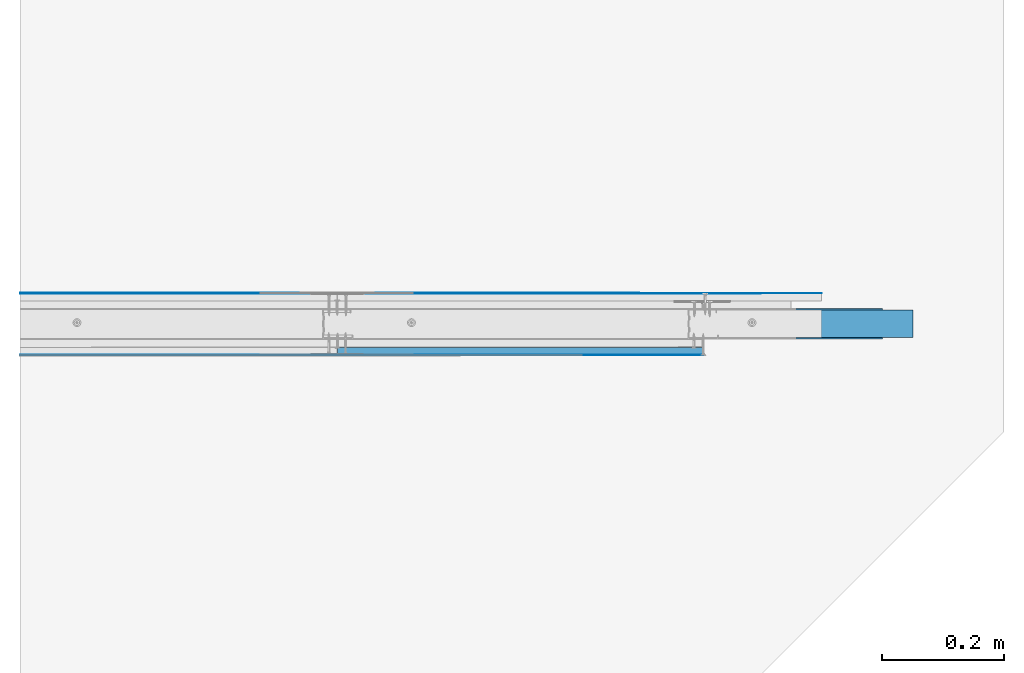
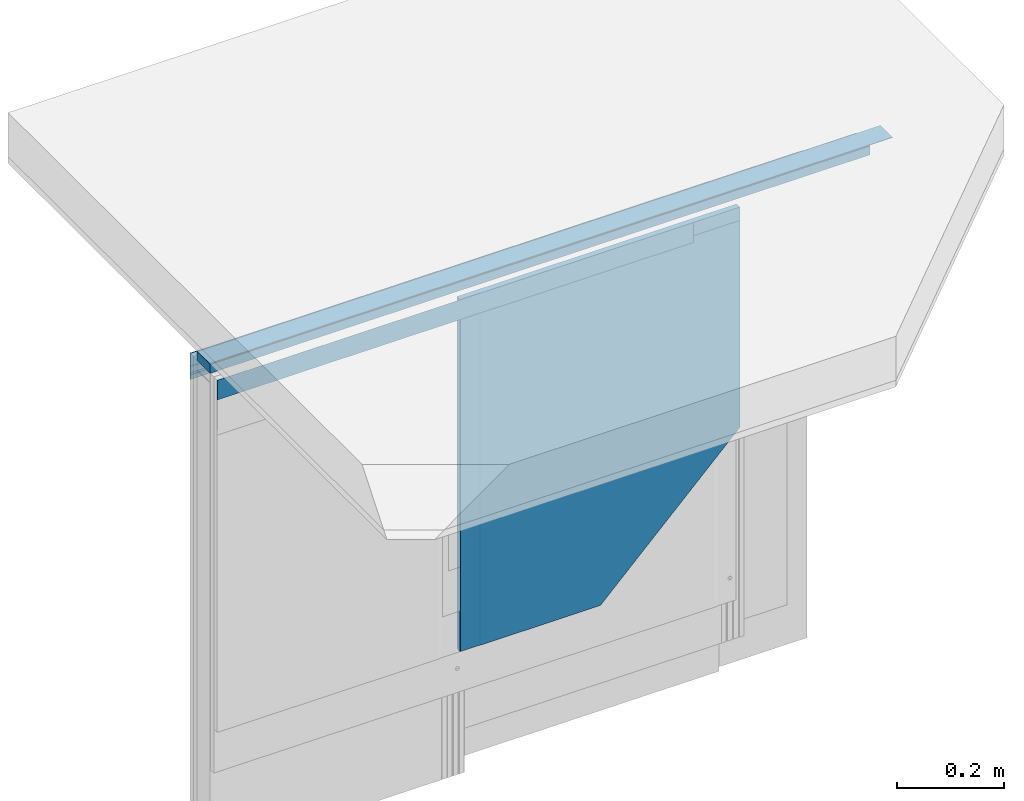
# One storey, part 2 of 36: 9 walls.
"""IFC2X3 building model written with IfcOpenShell, lengths in millimetres."""

from ifc_helpers import new_model, entity, si_unit, converted_unit, direction, frame, origin, origin_with_axes, place, context, project, spatial, faceted_brep, element, save


model = new_model("IFC2X3")

# Units and contexts
model_context = context("Model", 3, precision=1e-05, world=origin(), true_north=direction((0.0, 1.0, 0.0)))
ifc_project = project(units=[si_unit("LENGTHUNIT", "METRE", prefix="MILLI"), si_unit("AREAUNIT", "SQUARE_METRE"), si_unit("VOLUMEUNIT", "CUBIC_METRE"), converted_unit("PLANEANGLEUNIT", "DEGREE", entity("IfcPlaneAngleMeasure", 0.01745), si_unit("PLANEANGLEUNIT", "RADIAN"), dimensions=[0, 0, 0, 0, 0, 0, 0]), si_unit("SOLIDANGLEUNIT", "STERADIAN"), si_unit("MASSUNIT", "GRAM"), si_unit("TIMEUNIT", "SECOND"), si_unit("THERMODYNAMICTEMPERATUREUNIT", "DEGREE_CELSIUS"), si_unit("LUMINOUSINTENSITYUNIT", "LUMEN")], contexts=[model_context])

# Site, building, storey
site_placement = place(None, origin_with_axes())
site = spatial("IfcSite", under=ifc_project, at=site_placement, Name="Default Site", CompositionType="ELEMENT")
building_placement = place(site_placement, origin_with_axes())
building = spatial("IfcBuilding", under=site, at=building_placement, Name="Default Building", CompositionType="ELEMENT")
storey_placement = place(building_placement, origin_with_axes())
storey = spatial("IfcBuildingStorey", under=building, at=storey_placement, Name="Default Building Storey", CompositionType="ELEMENT", Elevation=0.0)

# Walls
wall_1_placement = place(storey_placement, frame((2647.242430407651, 1958.68007752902, 320.4228799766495), z_axis=(0.0, 0.0, -1.0), x_axis=(1.0, 0.0, 0.0)))
element("IfcWall", 1, at=wall_1_placement, inside=storey, Name="Płyta gipsowo-kartonowa RIGIPS PRO (4PRO™)", context=model_context, shape_type="Brep", body=[
    faceted_brep([(601.187218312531, 12.49999999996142, -550.0000000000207), (301.1872183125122, 12.49999999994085, -250.0000000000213), (301.1872183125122, -3.97051280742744e-11, -250.0000000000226), (601.1872183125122, -5.919673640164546e-11, -550.000000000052), (601.1872183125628, 12.49999999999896, -1050.001581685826), (44.99999999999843, 12.50000000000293, -1050.001581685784), (44.99999999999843, 12.50000000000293, -249.9999999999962), (601.187218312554, -2.526689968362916e-12, -1050.001581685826), (285.9232783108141, -4.475850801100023e-11, -250.0000000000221), (40.99999999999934, 11.50000000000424, -249.9999999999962), (0.9999999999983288, 11.5000000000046, -249.9999999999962), (0.7411809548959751, 11.46592582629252, -249.9999999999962), (0.4999999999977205, 11.3660254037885, -249.9999999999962), (0.29289321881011, 11.20710678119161, -249.9999999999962), (0.1339745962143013, 11.00000000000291, -249.9999999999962), (0.03407417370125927, 10.7588190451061, -249.9999999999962), (-3.97051280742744e-12, 10.50000000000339, -249.9999999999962), (0.0, 0.0, -249.9999999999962), (40.99999999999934, 11.50000000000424, -1050.001581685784), (0.9999999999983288, 11.5000000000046, -1050.001581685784), (0.7411809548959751, 11.46592582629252, -1050.001581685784), (0.4999999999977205, 11.3660254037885, -1050.001581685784), (0.29289321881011, 11.20710678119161, -1050.001581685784), (0.1339745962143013, 11.00000000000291, -1050.001581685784), (0.03407417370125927, 10.7588190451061, -1050.001581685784), (-3.97051280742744e-12, 10.50000000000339, -1050.001581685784), (0.0, 0.0, -1050.001581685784)], [[[0, 1, 2, 3]], [[0, 4, 5, 6, 1]], [[3, 7, 4, 0]], [[8, 2, 1, 6, 9, 10, 11, 12, 13, 14, 15, 16, 17]], [[2, 8, 3]], [[9, 6, 5, 18]], [[10, 9, 18, 19]], [[11, 10, 19, 20]], [[12, 11, 20, 21]], [[13, 12, 21, 22]], [[14, 13, 22, 23]], [[15, 14, 23, 24]], [[16, 15, 24, 25]], [[17, 16, 25, 26]], [[26, 7, 3, 8, 17]], [[5, 4, 7, 26, 25, 24, 23, 22, 21, 20, 19, 18]]]),
])
wall_2_placement = place(storey_placement, frame((3268.314756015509, 1972.150772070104, 1378.038854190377), z_axis=(0.0, 0.0, -1.0), x_axis=(1.0, 0.0, 0.0)))
element("IfcWall", 2, at=wall_2_placement, inside=storey, Name="Płyta gipsowa RIGIPS GLASROC F (Ridurit)", context=model_context, shape_type="Brep", body=[
    faceted_brep([(274.7258622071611, -49.99015067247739, -12.30000000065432), (274.7258622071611, 0.0, -12.30000000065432), (-1143.289622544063, 0.0, -12.30000000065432), (-1143.289622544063, -49.99015067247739, -12.30000000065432), (274.7258622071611, 0.0, 7.614392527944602), (-1143.289622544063, 0.0, 7.614392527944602), (274.7258622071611, -49.99015067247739, 7.614392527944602), (-1143.289622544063, -49.99015067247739, 7.614392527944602)], [[[0, 1, 2, 3]], [[1, 4, 5, 2]], [[4, 6, 7, 5]], [[6, 0, 3, 7]], [[7, 3, 2, 5]], [[0, 6, 4, 1]]]),
])
wall_3_placement = place(storey_placement, frame((3247.741854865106, 5452.42414647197, 1385.418092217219), z_axis=(6.44634805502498e-14, -6.858158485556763e-13, -1.0), x_axis=(1.0, -1.14833748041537e-16, 9.007748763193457e-14)))
element("IfcWall", 3, at=wall_3_placement, inside=storey, Name="Taśma uszczelniająca piankowa RIGIPS", context=model_context, shape_type="Brep", body=[
    faceted_brep([(-1122.716721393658, 3477.783223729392, -5.000000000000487), (-1122.716721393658, 3477.862841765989, -6.006369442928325), (-1122.716721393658, 3432.691889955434, -5.86497146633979), (-1122.716721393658, 3432.783223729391, -5.000000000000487), (345.2987633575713, 3477.862841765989, -6.006369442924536), (345.2987633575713, 3477.783223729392, -4.999999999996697), (345.2987633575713, 3432.783223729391, -4.999999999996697), (345.2987633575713, 3432.691889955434, -5.864971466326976)], [[[0, 1, 2, 3]], [[4, 5, 6, 7]], [[5, 0, 3, 6]], [[6, 3, 2, 7]], [[7, 2, 1, 4]], [[4, 1, 0, 5]]]),
])
wall_4_placement = place(storey_placement, frame((3148.429648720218, 1945.880077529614, 1320.724461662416), z_axis=(0.0, 0.0, 1.0), x_axis=(1.0, 0.0, 0.0)))
element("IfcWall", 4, at=wall_4_placement, inside=storey, Name="Dedykowana masa szpachlowa Rigips - konstrukcyjna", context=model_context, shape_type="Brep", body=[
    faceted_brep([(-1023.404515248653, 0.0, 50.0), (100.0, 0.0, 50.0), (100.0, 0.1999999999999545, 50.0), (-1023.404515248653, 0.1999999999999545, 50.0), (100.0, 0.0, 19.99999999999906), (100.0, 0.1999999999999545, 19.99999999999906), (-1023.404515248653, 0.0, 19.99999999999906), (-1023.404515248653, 0.1999999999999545, 19.99999999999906)], [[[0, 1, 2, 3]], [[1, 4, 5, 2]], [[4, 6, 7, 5]], [[6, 0, 3, 7]], [[7, 3, 2, 5]], [[0, 6, 4, 1]]]),
])
wall_5_placement = place(storey_placement, frame((3343.040618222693, 2047.340922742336, 1320.724461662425), z_axis=(0.0, 0.0, 1.0), x_axis=(1.0, 0.0, 0.0)))
element("IfcWall", 5, at=wall_5_placement, inside=storey, Name="Dedykowana masa szpachlowa Rigips - konstrukcyjna", context=model_context, shape_type="Brep", body=[
    faceted_brep([(-1218.015484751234, 0.0, 50.0), (99.99999999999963, 0.0, 50.0), (99.99999999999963, -0.1999999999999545, 50.0), (-1218.015484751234, -0.1999999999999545, 50.0), (99.99999999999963, 0.0, 19.99999999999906), (99.99999999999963, -0.1999999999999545, 19.99999999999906), (-1218.015484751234, 0.0, 19.99999999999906), (-1218.015484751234, -0.1999999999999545, 19.99999999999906)], [[[0, 1, 2, 3]], [[1, 4, 5, 2]], [[4, 6, 7, 5]], [[6, 0, 3, 7]], [[7, 3, 2, 5]], [[0, 6, 4, 1]]]),
])
wall_6_placement = place(storey_placement, frame((2662.545703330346, 5335.536799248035, 2083.183678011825), z_axis=(1.0, 1.078684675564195e-13, 1.253835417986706e-13), x_axis=(-1.253835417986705e-13, -6.938893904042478e-16, 1.0)))
element("IfcWall", 6, at=wall_6_placement, inside=storey, Name="Dedykowana masa szpachlowa Rigips - konstrukcyjna", context=model_context, shape_type="Brep", body=[
    faceted_brep([(-742.4592163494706, 3389.556721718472, -537.5205698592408), (-742.4592163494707, 3389.556721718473, 485.8839453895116), (-742.4592163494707, 3389.356721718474, 485.8839453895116), (-742.4592163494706, 3389.356721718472, -537.5205698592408), (-757.459216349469, 3389.356721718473, -537.52056985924), (-757.4592163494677, 3389.356721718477, 485.8839453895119), (-712.4592163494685, 3389.556721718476, 485.8839453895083), (-712.4592163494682, 3389.856721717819, 485.8839453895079), (-757.4592163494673, 3389.856721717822, 485.8839453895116), (-712.4592163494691, 3389.856721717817, -537.520569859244), (-712.4592163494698, 3389.556721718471, -537.5205698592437), (-757.4592163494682, 3389.856721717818, -537.5205698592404)], [[[0, 1, 2, 3]], [[4, 3, 2, 5]], [[6, 7, 8, 5, 2, 1]], [[9, 10, 0, 3, 4, 11]], [[6, 1, 0, 10]], [[11, 4, 5, 8]], [[11, 8, 7, 9]], [[9, 7, 6, 10]]]),
])
wall_7_placement = place(storey_placement, frame((2857.156672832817, -1342.315798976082, 2083.183678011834), z_axis=(1.0, -1.078684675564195e-13, 1.253835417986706e-13), x_axis=(-1.253835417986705e-13, 6.938893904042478e-16, 1.0)))
element("IfcWall", 7, at=wall_7_placement, inside=storey, Name="Dedykowana masa szpachlowa Rigips - konstrukcyjna", context=model_context, shape_type="Brep", body=[
    faceted_brep([(-742.4592163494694, -3389.556721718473, -732.1315393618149), (-742.4592163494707, -3389.556721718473, 485.8839453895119), (-742.4592163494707, -3389.356721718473, 485.8839453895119), (-742.4592163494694, -3389.356721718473, -732.1315393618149), (-757.4592163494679, -3389.356721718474, -732.1315393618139), (-757.4592163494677, -3389.356721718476, 485.8839453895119), (-712.4592163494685, -3389.556721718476, 485.8839453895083), (-712.4592163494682, -3389.856721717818, 485.8839453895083), (-757.4592163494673, -3389.856721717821, 485.8839453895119), (-712.459216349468, -3389.856721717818, -732.1315393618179), (-712.4592163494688, -3389.556721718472, -732.1315393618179), (-757.4592163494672, -3389.856721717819, -732.1315393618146)], [[[0, 1, 2, 3]], [[4, 3, 2, 5]], [[6, 7, 8, 5, 2, 1]], [[9, 10, 0, 3, 4, 11]], [[6, 1, 0, 10]], [[11, 4, 5, 8]], [[11, 8, 7, 9]], [[9, 7, 6, 10]]]),
])
wall_8_placement = place(storey_placement, frame((2757.156672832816, -1341.91579897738, 2083.183678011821), z_axis=(1.0, -1.078684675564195e-13, 1.253835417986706e-13), x_axis=(-1.253835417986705e-13, 6.938893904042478e-16, 1.0)))
element("IfcWall", 8, at=wall_8_placement, inside=storey, Name="Dedykowana masa szpachlowa Rigips - konstrukcyjna", context=model_context, shape_type="Brep", body=[
    faceted_brep([(-762.4592163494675, -3389.656721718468, -632.1315393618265), (-762.4592163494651, -3389.656721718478, 385.8839453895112), (-762.4592163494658, -3388.956721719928, 385.8839453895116), (-762.4592163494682, -3388.956721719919, -632.1315393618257), (-772.459216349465, -3388.956721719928, 385.8839453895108), (-772.4592163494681, -3388.956721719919, -632.1315393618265), (-712.4592163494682, -3389.656721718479, 385.8839453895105), (-712.4592163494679, -3389.856721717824, 385.8839453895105), (-772.4592163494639, -3389.856721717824, 385.8839453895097), (-712.4592163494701, -3389.856721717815, -632.1315393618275), (-712.4592163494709, -3389.656721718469, -632.1315393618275), (-772.4592163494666, -3389.856721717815, -632.1315393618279)], [[[0, 1, 2, 3]], [[2, 4, 5, 3]], [[6, 7, 8, 4, 2, 1]], [[9, 10, 0, 3, 5, 11]], [[0, 10, 6, 1]], [[4, 8, 11, 5]], [[11, 8, 7, 9]], [[9, 7, 6, 10]]]),
])
wall_9_placement = place(storey_placement, frame((2807.15667283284, -1342.11579897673, 2083.183678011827), z_axis=(1.0, -1.078684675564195e-13, 1.253835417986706e-13), x_axis=(-1.253835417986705e-13, 6.938893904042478e-16, 1.0)))
element("IfcWall", 9, at=wall_9_placement, inside=storey, Name="Taśma spoinowa RIGIPS", context=model_context, shape_type="Brep", body=[
    faceted_brep([(-712.4592163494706, -3389.656721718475, 435.8839453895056), (-712.4592163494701, -3389.856721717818, 435.8839453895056), (-762.4592163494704, -3389.856721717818, 435.8839453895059), (-762.4592163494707, -3389.656721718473, 435.8839453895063), (-712.4592163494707, -3389.856721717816, -682.1315393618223), (-712.4592163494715, -3389.65672171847, -682.1315393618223), (-762.4592163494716, -3389.65672171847, -682.1315393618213), (-762.4592163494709, -3389.856721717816, -682.131539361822)], [[[0, 1, 2, 3]], [[4, 5, 6, 7]], [[5, 0, 3, 6]], [[6, 3, 2, 7]], [[7, 2, 1, 4]], [[4, 1, 0, 5]]]),
])

save(model, "model.ifc")
